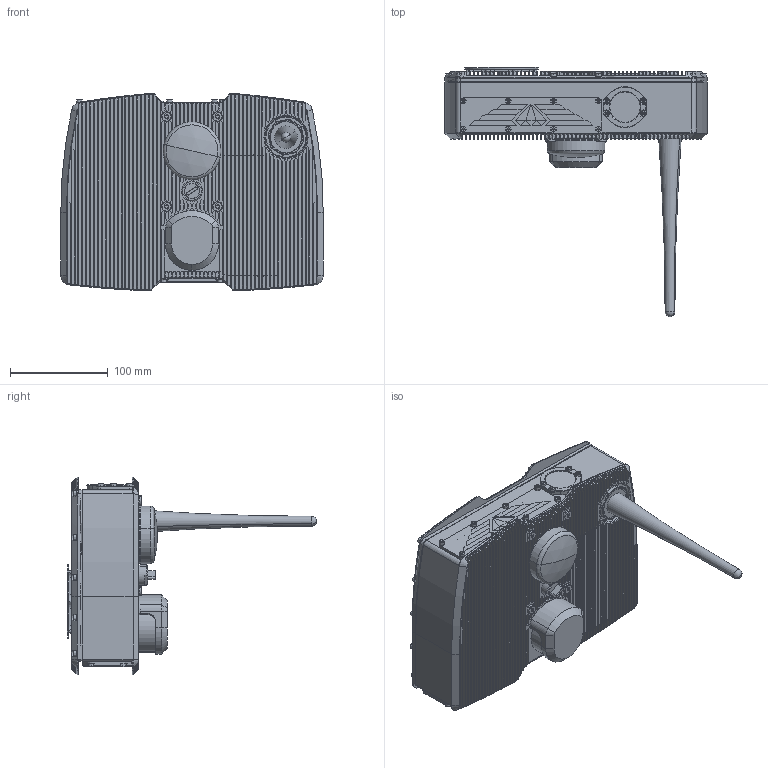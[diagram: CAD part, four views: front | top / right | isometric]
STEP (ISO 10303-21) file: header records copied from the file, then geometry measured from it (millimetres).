
FILE_DESCRIPTION (( 'STEP AP203' ), '1' );
FILE_NAME ('鏝鋋瘔 3D.STEP', '2015-08-18T14:32:39', ( '' ), ( '' ), 'SwSTEP 2.0', 'SolidWorks 2015', '' );
FILE_SCHEMA (( 'CONFIG_CONTROL_DESIGN' ));
Length unit declared in the file: millimetre
Products named in the file (1): 鏝鋋瘔 3D
Bounding box: 268 x 254.7 x 201.99 mm (x, y, z)
Volume: 3055241.1 mm3; surface area: 424207 mm2
Topology: 36 solids, 123 shells, 5043 faces, 12785 edges, 7975 vertices
Faces by surface type: plane 2254, cylinder 1528, cone 651, torus 384, bspline 220, sphere 6
Entity records: 165332 total; most frequent: CARTESIAN_POINT 45665, ORIENTED_EDGE 25178, DIRECTION 25061, EDGE_CURVE 12589, AXIS2_PLACEMENT_3D 9574, VERTEX_POINT 7973, LINE 5913, VECTOR 5913
